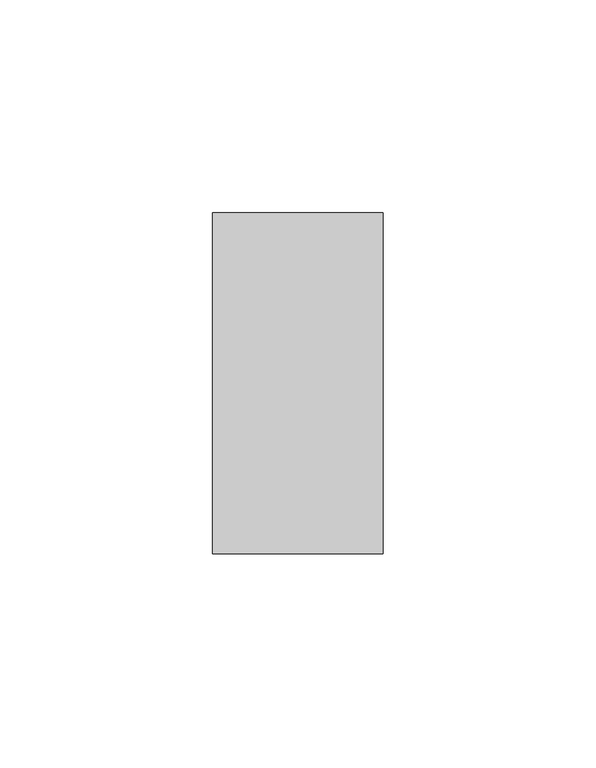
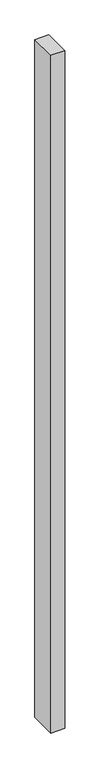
"""IFC4 building model written with IfcOpenShell, lengths in millimetres: member geometry, Obdélníková příčel : VERTI PANORAMA - vertikální."""

from ifc_helpers import new_model, si_unit, frame, origin, place, context, project, spatial, polyline, outline, extrude, source, transform, mapped, element, save


def member_e4ff52b1(model_context):
    return source(origin(), model_context, "Body", "SweptSolid", [
        extrude(outline(polyline([(0.0, 40.0), (0.0, -40.0), (-40.0, -40.0), (-40.0, 40.0), (0.0, 40.0)])), frame((0.0, 0.0, -2060.0), z_axis=(0.0, 0.0, 1.0), x_axis=(1.0, 0.0, 0.0)), (0.0, 0.0, 1.0), 2060.0),
    ])


if __name__ == "__main__":
    model = new_model("IFC4")
    model_context = context("Model", 3, world=origin())
    ifc_project = project(units=[si_unit("LENGTHUNIT", "METRE", prefix="MILLI")], contexts=[model_context])
    site = spatial("IfcSite", under=ifc_project)
    building = spatial("IfcBuilding", under=site)
    placement = place(None, origin())
    member_shape = member_e4ff52b1(model_context)
    element("IfcMember", 1, ObjectType="Obdélníková příčel : VERTI PANORAMA - vertikální", at=placement, inside=building, context=model_context, shape_type="MappedRepresentation", body=[
        mapped(member_shape, transform((0.0, 0.0, 0.0), x_axis=(1.0, 0.0, 0.0), y_axis=(0.0, 1.0, 0.0), z_axis=(0.0, 0.0, 1.0))),
    ])
    save(model, "model.ifc")
